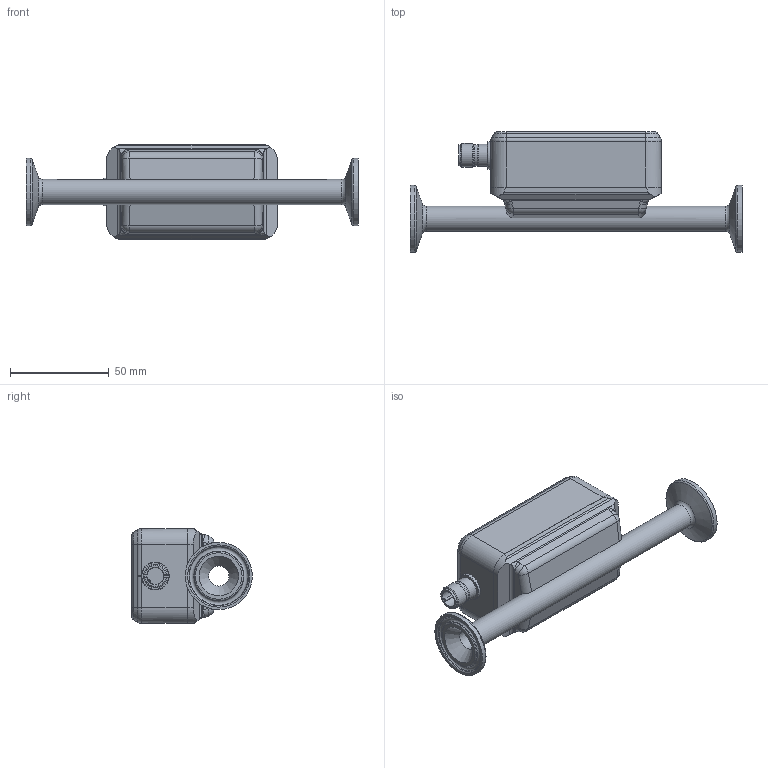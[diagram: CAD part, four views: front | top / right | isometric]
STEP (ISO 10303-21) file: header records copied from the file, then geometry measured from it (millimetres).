
FILE_DESCRIPTION(/* description */ ('STEP AP203'),/* implementation_level */ '2;1');
FILE_NAME(/* name */ 'P_MZ_300_0423',/* time_stamp */ '2025-05-05T09:18:49+02:00',/* author */ ('License CC BY-ND 4.0'),/* organization */ ('CADENAS'),/* preprocessor_version */ 'ST-DEVELOPER v19.3',/* originating_system */ 'PARTsolutions',/* authorisation */ ' ');
FILE_SCHEMA (('CONFIG_CONTROL_DESIGN','FEATURE_BASED_PROCESS_PLANNING','TECHNICAL_DATA_PACKAGING'));
Length unit declared in the file: millimetre
Products named in the file (1): P_MZ_300_0423
Bounding box: 168 x 61.13 x 48.15 mm (x, y, z)
Volume: 172451.5 mm3; surface area: 31180.8 mm2
Topology: 1 solids, 1 shells, 136 faces, 311 edges, 179 vertices
Faces by surface type: cylinder 46, plane 40, torus 21, cone 16, bspline 9, sphere 4
Full cylindrical faces by diameter (mm): 8.45 x1, 10.2 x1, 10.55 x1, 10.8 x1, 11.3 x1, 12 x1, 12.7 x1, 14 x1, 34 x2
Entity records: 4701 total; most frequent: CARTESIAN_POINT 834, DIRECTION 640, ORIENTED_EDGE 540, AXIS2_PLACEMENT_3D 271, EDGE_CURVE 270, EDGE_LOOP 179, FACE_BOUND 179, VERTEX_POINT 177
